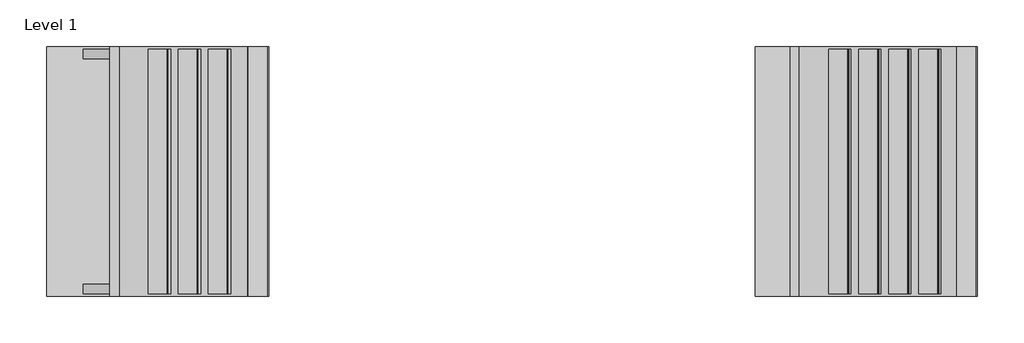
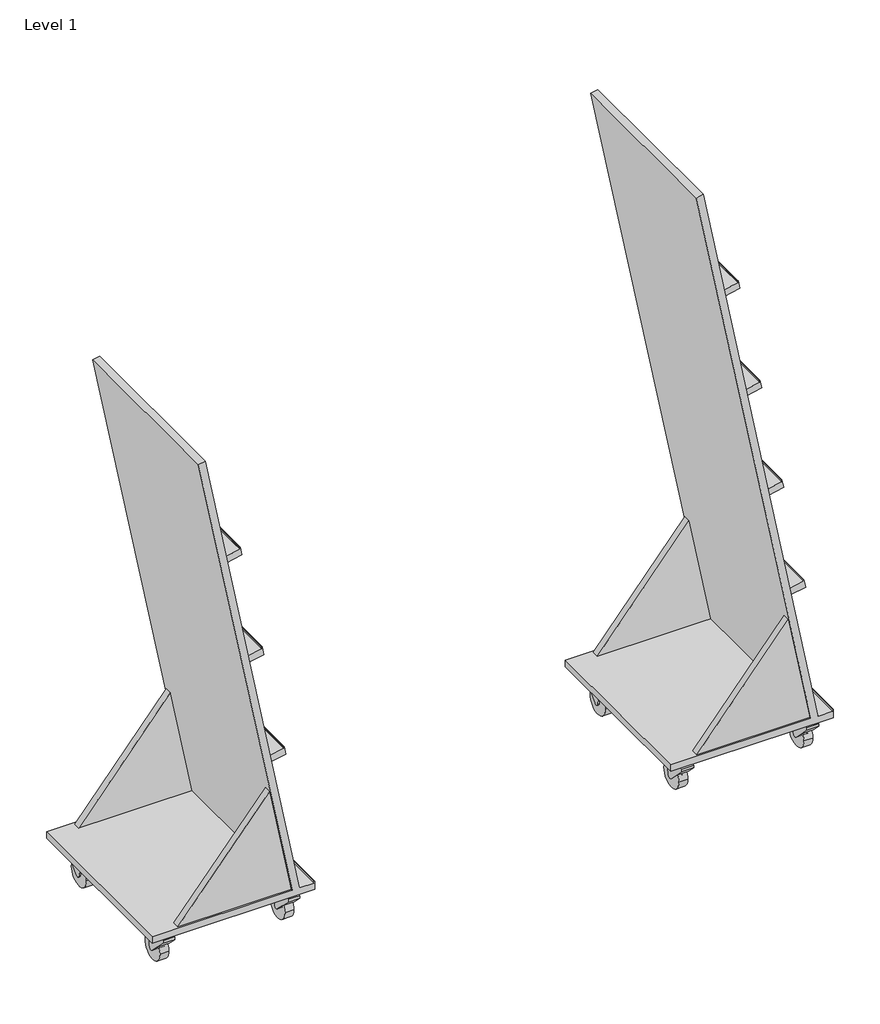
# One storey: 2 furniture elements.
"""IFC4 building model written with IfcOpenShell, lengths in millimetres."""

from ifc_helpers import new_model, si_unit, origin, place, context, project, spatial, transform, mapped, element, save
from components import furniture_630a258a, furniture_bcf0a29a

model = new_model("IFC4")

# Units and contexts
model_context = context("Model", 3, world=origin())
ifc_project = project(units=[si_unit("LENGTHUNIT", "METRE", prefix="MILLI")], contexts=[model_context])

# Site, building, storey
site = spatial("IfcSite", under=ifc_project)
building = spatial("IfcBuilding", under=site)
storey = spatial("IfcBuildingStorey", under=building, Name="Level 1", Elevation=0.0)

# Furniture
placement = place(None, origin())
furniture_shape = furniture_630a258a(model_context)
element("IfcFurniture", 1, ObjectType="BK Library - Vaesteraas Floor Model - 1400 : BK Library - Vaesteraas Floor Model - 1400", at=placement, inside=storey, context=model_context, shape_type="MappedRepresentation", body=[
    mapped(furniture_shape, transform((-3269.7402318, 2197.9079464, -828.6569781), x_axis=(0.0, 1.0, 0.0), y_axis=(-1.0, 0.0, 0.0), z_axis=(0.0, 0.0, 1.0))),
])
furniture_2_shape = furniture_bcf0a29a(model_context)
element("IfcFurniture", 2, ObjectType="BK Library - Vaesteraas Floor Model - 1700 : BK Library - Vaesteraas Floor Model - 1700", at=placement, inside=storey, context=model_context, shape_type="MappedRepresentation", body=[
    mapped(furniture_2_shape, transform((-1849.7402318, 2197.9079464, -828.6569781), x_axis=(0.0, 1.0, 0.0), y_axis=(-1.0, 0.0, 0.0), z_axis=(0.0, 0.0, 1.0))),
])

save(model, "model.ifc")
